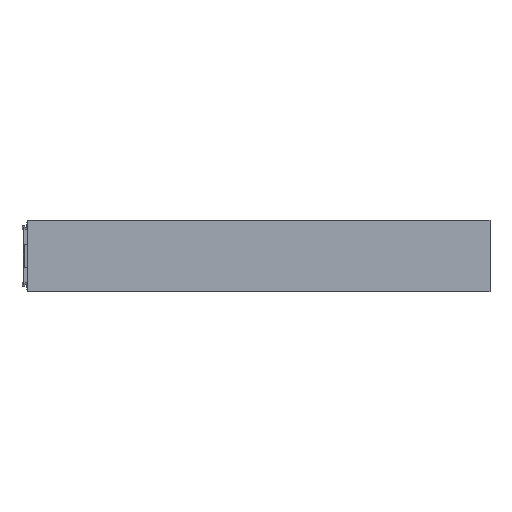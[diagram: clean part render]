
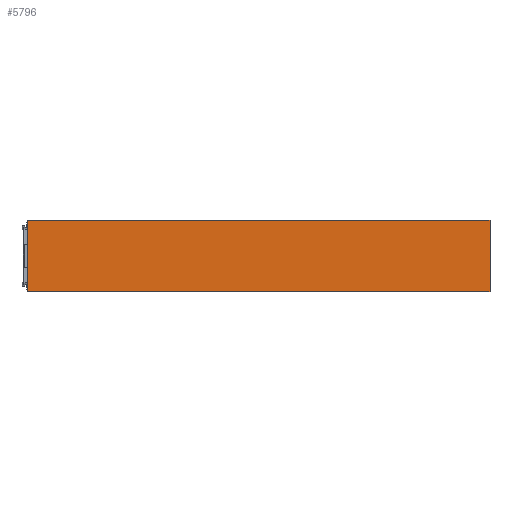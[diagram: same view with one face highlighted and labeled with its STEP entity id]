
A CAD part, top view. The second image highlights one B-rep face of the part: STEP entity #5796.
In plain terms, the highlighted planar face has unit normal (0, 0, 1).
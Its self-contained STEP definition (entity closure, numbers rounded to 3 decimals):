
#613=DIRECTION('',(-1.,0.,0.));
#614=VECTOR('',#613,279.74);
#615=CARTESIAN_POINT('',(273.145,21.5,10.9));
#616=LINE('',#615,#614);
#617=DIRECTION('',(0.,-1.,0.));
#618=VECTOR('',#617,43.);
#619=CARTESIAN_POINT('',(-6.595,21.5,10.9));
#620=LINE('',#619,#618);
#641=DIRECTION('',(0.,-1.,0.));
#642=VECTOR('',#641,43.);
#643=CARTESIAN_POINT('',(273.145,21.5,10.9));
#644=LINE('',#643,#642);
#681=DIRECTION('',(-1.,0.,0.));
#682=VECTOR('',#681,279.74);
#683=CARTESIAN_POINT('',(273.145,-21.5,10.9));
#684=LINE('',#683,#682);
#4387=CARTESIAN_POINT('',(-6.595,21.5,10.9));
#4388=CARTESIAN_POINT('',(-6.595,-21.5,10.9));
#4389=VERTEX_POINT('',#4387);
#4390=VERTEX_POINT('',#4388);
#4608=CARTESIAN_POINT('',(273.145,-21.5,10.9));
#4610=VERTEX_POINT('',#4608);
#4627=CARTESIAN_POINT('',(273.145,21.5,10.9));
#4628=VERTEX_POINT('',#4627);
#5782=CARTESIAN_POINT('',(-1.75,-21.5,10.9));
#5783=DIRECTION('',(0.,0.,-1.));
#5784=DIRECTION('',(0.,1.,0.));
#5785=AXIS2_PLACEMENT_3D('',#5782,#5783,#5784);
#5786=PLANE('',#5785);
#5788=ORIENTED_EDGE('',*,*,#5787,.F.);
#5790=ORIENTED_EDGE('',*,*,#5789,.T.);
#5792=ORIENTED_EDGE('',*,*,#5791,.T.);
#5793=ORIENTED_EDGE('',*,*,#5750,.F.);
#5794=EDGE_LOOP('',(#5788,#5790,#5792,#5793));
#5795=FACE_OUTER_BOUND('',#5794,.F.);
#5796=ADVANCED_FACE('',(#5795),#5786,.F.);
#5750=EDGE_CURVE('',#4389,#4390,#620,.T.);
#5787=EDGE_CURVE('',#4628,#4389,#616,.T.);
#5789=EDGE_CURVE('',#4628,#4610,#644,.T.);
#5791=EDGE_CURVE('',#4610,#4390,#684,.T.);
